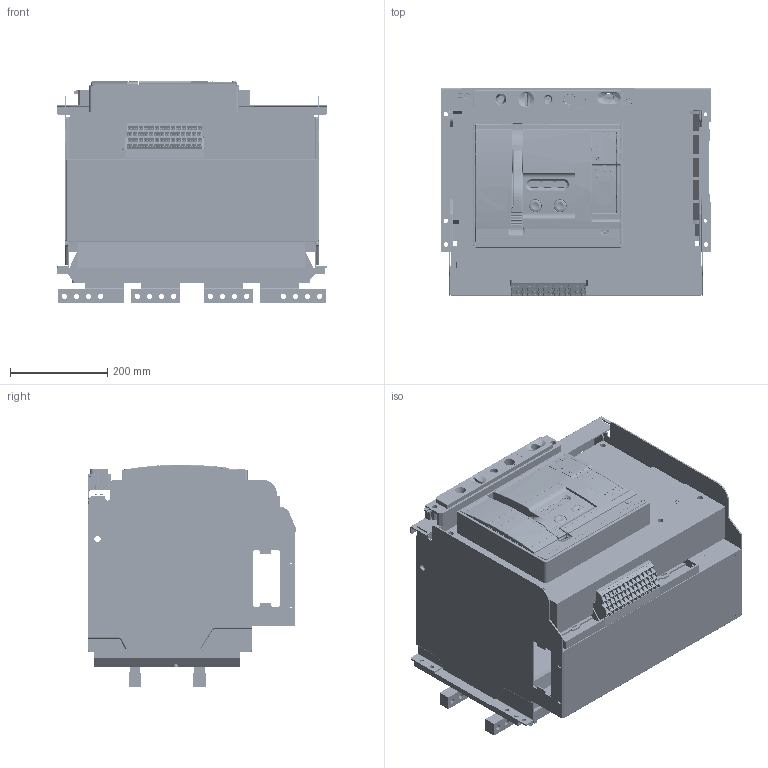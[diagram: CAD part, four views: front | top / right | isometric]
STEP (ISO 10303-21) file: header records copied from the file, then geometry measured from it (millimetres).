
FILE_DESCRIPTION(/* description */ (''),/* implementation_level */ '2;1');
FILE_NAME(/* name */ 'C:/Users/carlos.gonzalez/Documents/ADRIAN_TEMP_DRAWING/Ex9A40_4P_4000_DO_PB_Drawing.step',/* time_stamp */ '2021-10-14T13:09:59+02:00',/* author */ (''),/* organization */ (''),/* preprocessor_version */ 'ST-DEVELOPER v18.1',/* originating_system */ 'Autodesk Translation Framework v10.10.0.1391',/* authorisation */ '');
FILE_SCHEMA (('AUTOMOTIVE_DESIGN { 1 0 10303 214 3 1 1 }'));
Products named in the file (59): Ex9A40-4P-4000-DO; Auxiliary terminals; 5ZTD-558-695-4000_ASM; 5ZTD-558-712_ASM; 5ZTD-558-712_ASM_1; 5ZTD-558-712_ASM_2; 5ZTD-558-712_ASM_3; 5ZTD-558-712_ASM_4; 5ZTD-558-712_ASM_5; 5ZTD-558-712_ASM_6; 5ZTD-558-712_ASM_7; 5ZTD-558-712_ASM_8; 5ZTD-558-712_ASM_9; 5ZTD-558-712_ASM_10; 5ZTD-558-712_ASM_11; 5ZTD-558-712_ASM_12; 5ZTD-558-712_ASM_13; 8ZTD-024-837; 8ZTD-557-514; 8ZTD-557-515; 8ZTD-557-516; 8ZTD-557-517; M3_GB6170; M3X8_GB818; 8ZTD-141-185; 8ZTD-141-184; 8ZTD-860-699; 8ZTD-064-136; Main terminals; 8580A0412021; 8580A0412020; Internal components; 40-4P-DIBAN02; 8300A0304004; 8300A0101006; 8050A0306120T; 8050A0306121T; 8300A0101130-; 8050A0306127T; Cover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
Assembly tree (265 placements, depth 5):
  Ex9A40-4P-4000-DO
    Auxiliary terminals
      5ZTD-558-695-4000_ASM
        5ZTD-558-712_ASM
          8ZTD-024-837
          8ZTD-557-514
          8ZTD-557-515
          8ZTD-557-516
          8ZTD-557-517
          M3_GB6170  x4
          M3X8_GB818  x4
          8ZTD-141-185
          8ZTD-141-184
        5ZTD-558-712_ASM_1
          8ZTD-024-837
          8ZTD-557-514
          8ZTD-557-515
          8ZTD-557-516
          8ZTD-557-517
          M3_GB6170  x4
          M3X8_GB818  x4
          8ZTD-141-185
          8ZTD-141-184
        5ZTD-558-712_ASM_2
          8ZTD-024-837
          8ZTD-557-514
          8ZTD-557-515
          8ZTD-557-516
          8ZTD-557-517
          M3_GB6170  x4
          M3X8_GB818  x4
          8ZTD-141-185
          8ZTD-141-184
        5ZTD-558-712_ASM_3
          8ZTD-024-837
          8ZTD-557-514
          8ZTD-557-515
          8ZTD-557-516
          8ZTD-557-517
          M3_GB6170  x4
          M3X8_GB818  x4
          8ZTD-141-185
          8ZTD-141-184
        5ZTD-558-712_ASM_4
          8ZTD-024-837
          8ZTD-557-514
          8ZTD-557-515
          8ZTD-557-516
          8ZTD-557-517
          M3_GB6170  x4
          M3X8_GB818  x4
          8ZTD-141-185
          8ZTD-141-184
        5ZTD-558-712_ASM_5
          8ZTD-024-837
          8ZTD-557-514
          8ZTD-557-515
          8ZTD-557-516
          8ZTD-557-517
          M3_GB6170  x4
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Bounding box: 554 x 428.53 x 456.99 mm (x, y, z)
Volume: 17957101.4 mm3; surface area: 4116303.7 mm2
Topology: 244 solids, 331 shells, 20305 faces, 54117 edges, 35206 vertices
Faces by surface type: plane 15362, cylinder 2661, bspline 933, cone 837, torus 393, sphere 119
Full cylindrical faces by diameter (mm): 2 x539, 2.1 x2, 2.246 x56, 2.5 x3, 2.6 x2, 3 x88, 3.2 x4, 3.3 x1, 3.5 x45, 4 x94, 4.3 x1, 4.5 x3, 5 x20, 5.008 x1, 5.5 x1, 6 x5, 6.1 x1, 6.5 x8, 7 x8, 8 x2, 8.3 x2, 8.5 x32, 9 x12, 10 x32, 11 x35, 12 x7, 12.5 x1, 13 x5, 14 x2, 14.4 x1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
Entity records: 261911 total; most frequent: CARTESIAN_POINT 99389, ORIENTED_EDGE 34078, DIRECTION 31797, EDGE_CURVE 17092, LINE 12469, VECTOR 12469, VERTEX_POINT 11092, AXIS2_PLACEMENT_3D 9664
